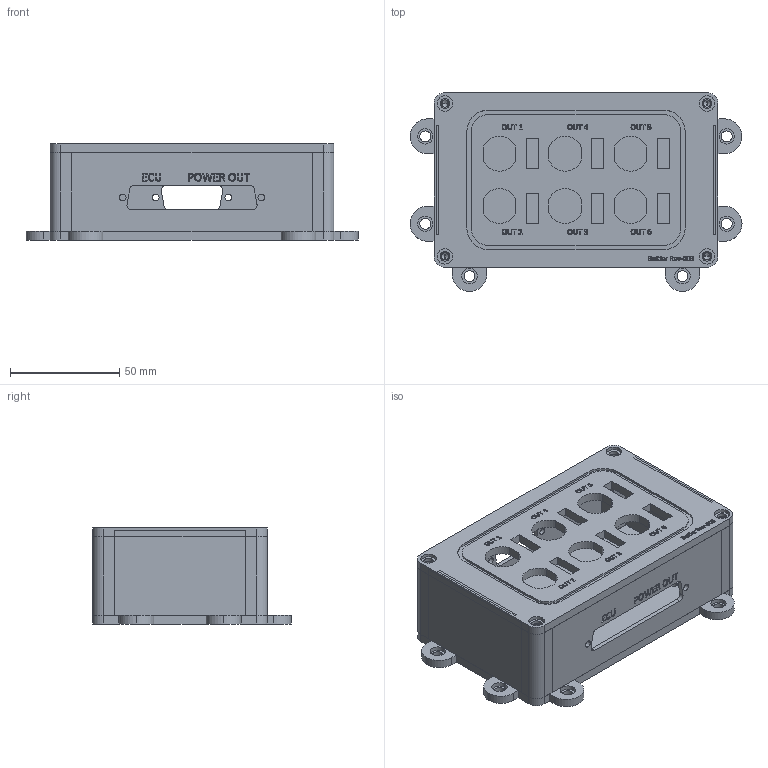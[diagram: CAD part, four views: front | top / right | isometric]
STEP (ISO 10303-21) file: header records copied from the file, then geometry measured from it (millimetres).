
FILE_DESCRIPTION (( 'STEP AP214' ), '1' );
FILE_NAME ('Assemblage2.STEP', '2015-03-05T14:54:59', ( '' ), ( '' ), 'SwSTEP 2.0', 'SolidWorks 2013', '' );
FILE_SCHEMA (( 'AUTOMOTIVE_DESIGN' ));
Length unit declared in the file: millimetre
Products named in the file (7): fond1; cotelongueur2bfr; cotelongueur1bfr; fond12; Assemblage2; cotelargeur1; equerre2
Assembly tree (10 placements, depth 2):
  Assemblage2
    fond1
    cotelargeur1  x2
    cotelongueur1bfr
    cotelongueur2bfr
    equerre2  x4
    fond12
Bounding box: 152 x 91 x 44 mm (x, y, z)
Volume: 113126.4 mm3; surface area: 85638.2 mm2
Topology: 10 solids, 10 shells, 1357 faces, 3620 edges, 2400 vertices
Faces by surface type: plane 664, bspline 447, cylinder 230, cone 16
Entity records: 68403 total; most frequent: CARTESIAN_POINT 31935, ORIENTED_EDGE 6494, DIRECTION 4299, EDGE_CURVE 3247, VERTEX_POINT 2164, VECTOR 1971, LINE 1971, EDGE_LOOP 1409
